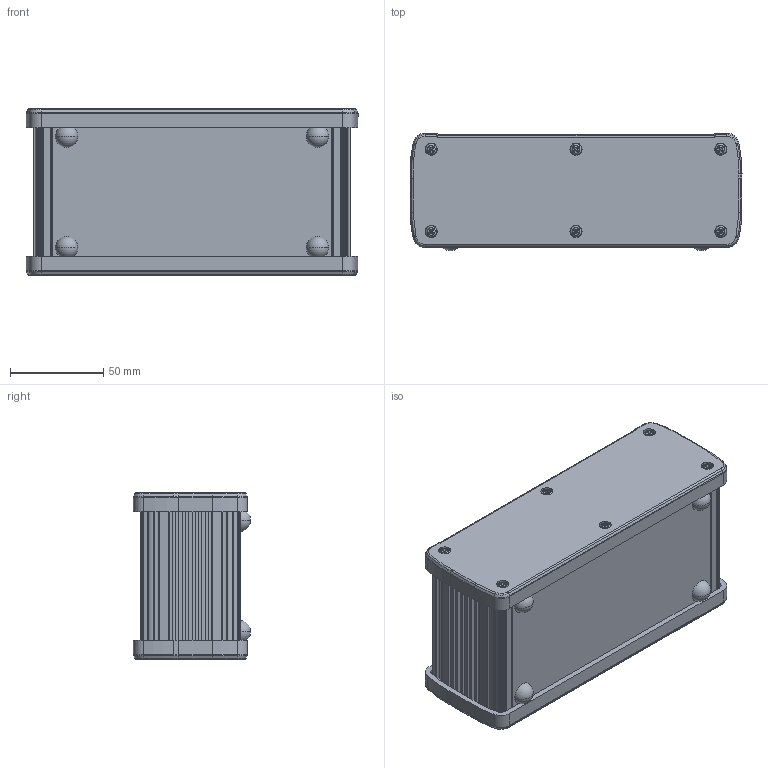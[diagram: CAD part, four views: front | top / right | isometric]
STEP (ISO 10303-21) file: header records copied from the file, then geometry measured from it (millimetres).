
FILE_DESCRIPTION (( 'STEP AP203' ), '1' );
FILE_NAME ('EX-63-01.step', '2017-08-29T18:19:53', ( '' ), ( '' ), 'SwSTEP 2.0', 'SolidWorks 2016', '' );
FILE_SCHEMA (( 'CONFIG_CONTROL_DESIGN' ));
Length unit declared in the file: inch
Products named in the file (7): EX-63B-66B_EX-63B-01; pan cross head_ks_EX-01S-01; EX-63E_EX-63E-01; EX-63G; EX-01A; EX-01W; EX-63-01
Assembly tree (33 placements, depth 2):
  EX-63-01
    EX-63B-66B_EX-63B-01
    EX-63E_EX-63E-01  x2
    EX-63G  x2
    pan cross head_ks_EX-01S-01  x12
    EX-01W  x12
    EX-01A  x4
Bounding box: 177.69 x 62.8 x 89.49 mm (x, y, z)
Volume: 216061.8 mm3; surface area: 171853.2 mm2
Topology: 33 solids, 33 shells, 1628 faces, 4170 edges, 2602 vertices
Faces by surface type: plane 670, cylinder 582, cone 170, torus 150, sphere 56
Entity records: 29145 total; most frequent: CARTESIAN_POINT 6268, DIRECTION 4614, ORIENTED_EDGE 4472, EDGE_CURVE 2236, AXIS2_PLACEMENT_3D 1641, VERTEX_POINT 1431, VECTOR 1332, LINE 1332
